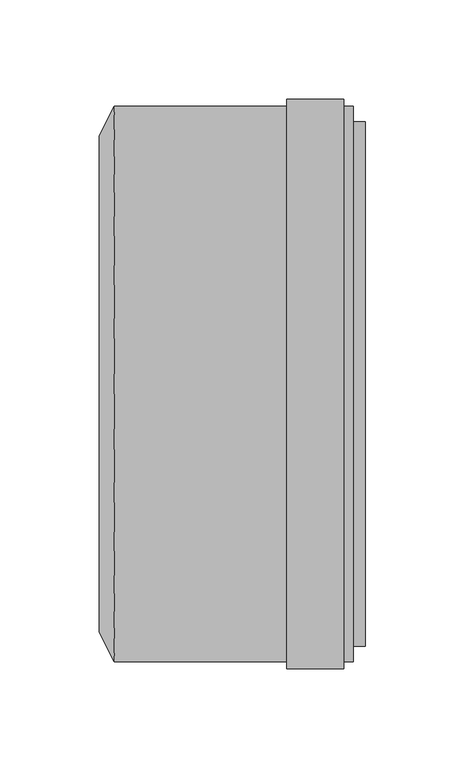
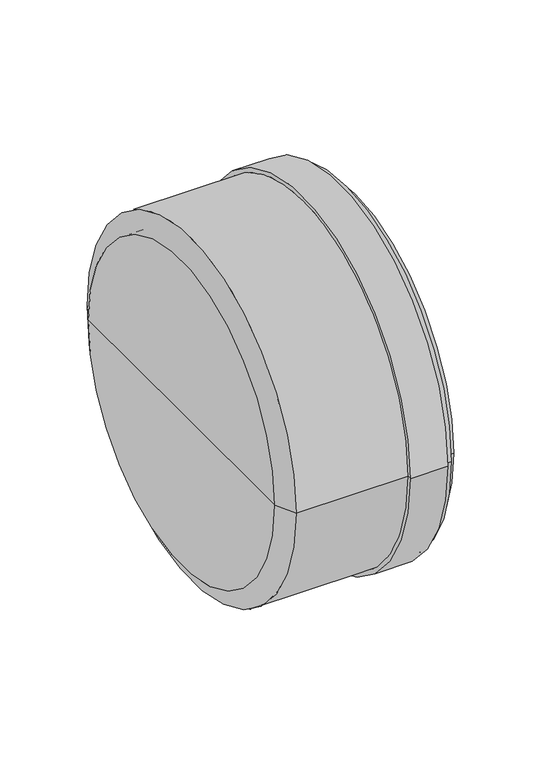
"""IFC4 building model written with IfcOpenShell, lengths in millimetres: pipe fitting geometry, pf_KGM_zatka : pf_KGM_zatka."""

from ifc_helpers import new_model, si_unit, frame, origin, place, context, project, spatial, polyline, circle_curve, source, transform, mapped, element, save
from ifc_brep_helpers import plane_surface, cylinder_surface, revolved_surface, advanced_brep


def pipe_fitting_c6753fa5(model_context):
    return source(origin(), model_context, "Body", "AdvancedBrep", [
        advanced_brep(
        [(-128.0, -125.0, 0.0), (-128.0, 125.0, 0.0), (-120.3, 140.1, 0.0), (-120.3, -140.1, 0.0), (-128.0, 0.0, 0.0), (0.0, -140.1, 0.0), (0.0, 140.1, 0.0), (0.0, 125.0, 0.0), (0.0, -125.0, 0.0), (-4.8, -140.1, 0.0), (-4.8, 140.1, 0.0), (-4.8, -143.5, 0.0), (-4.8, 143.5, 0.0), (-33.5, -143.5, 0.0), (-33.5, 143.5, 0.0), (-33.5, -140.1, 0.0), (-33.5, 140.1, 0.0), (-120.3, -125.0, 0.0), (-120.3, 125.0, 0.0), (-120.3, 0.0, 0.0)],
        [
            (0, 1, circle_curve(frame((-128.0, 0.0, 0.0), z_axis=(1.0, 0.0, 0.0), x_axis=(0.0, 1.0, 0.0)), 125.0)),
            (1, 2),
            (2, 3, circle_curve(frame((-120.3, 0.0, 0.0), z_axis=(-1.0, 0.0, 0.0), x_axis=(0.0, 1.0, 0.0)), 140.1)),
            (3, 0),
            (1, 0, circle_curve(frame((-128.0, 0.0, 0.0), z_axis=(1.0, 0.0, 0.0), x_axis=(0.0, 1.0, 0.0)), 125.0)),
            (3, 2, circle_curve(frame((-120.3, 0.0, 0.0), z_axis=(-1.0, 0.0, 0.0), x_axis=(0.0, 1.0, 0.0)), 140.1)),
            (4, 1),
            (0, 4),
            (5, 6, circle_curve(frame((0.0, 0.0, 0.0), z_axis=(1.0, 0.0, 0.0), x_axis=(0.0, 1.0, 0.0)), 140.1)),
            (6, 7),
            (7, 8, circle_curve(frame((0.0, 0.0, 0.0), z_axis=(-1.0, 0.0, 0.0), x_axis=(0.0, 1.0, 0.0)), 125.0)),
            (8, 5),
            (6, 5, circle_curve(frame((0.0, 0.0, 0.0), z_axis=(1.0, 0.0, 0.0), x_axis=(0.0, 1.0, 0.0)), 140.1)),
            (8, 7, circle_curve(frame((0.0, 0.0, 0.0), z_axis=(-1.0, 0.0, 0.0), x_axis=(0.0, 1.0, 0.0)), 125.0)),
            (9, 10, circle_curve(frame((-4.8, 0.0, 0.0), z_axis=(1.0, 0.0, 0.0), x_axis=(0.0, 1.0, 0.0)), 140.1)),
            (10, 6),
            (5, 9),
            (10, 9, circle_curve(frame((-4.8, 0.0, 0.0), z_axis=(1.0, 0.0, 0.0), x_axis=(0.0, 1.0, 0.0)), 140.1)),
            (11, 12, circle_curve(frame((-4.8, 0.0, 0.0), z_axis=(1.0, 0.0, 0.0), x_axis=(0.0, 1.0, 0.0)), 143.5)),
            (12, 10),
            (9, 11),
            (12, 11, circle_curve(frame((-4.8, 0.0, 0.0), z_axis=(1.0, 0.0, 0.0), x_axis=(0.0, 1.0, 0.0)), 143.5)),
            (13, 14, circle_curve(frame((-33.5, 0.0, 0.0), z_axis=(1.0, 0.0, 0.0), x_axis=(0.0, 1.0, 0.0)), 143.5)),
            (14, 12),
            (11, 13),
            (14, 13, circle_curve(frame((-33.5, 0.0, 0.0), z_axis=(1.0, 0.0, 0.0), x_axis=(0.0, 1.0, 0.0)), 143.5)),
            (15, 16, circle_curve(frame((-33.5, 0.0, 0.0), z_axis=(1.0, 0.0, 0.0), x_axis=(0.0, 1.0, 0.0)), 140.1)),
            (16, 14),
            (13, 15),
            (16, 15, circle_curve(frame((-33.5, 0.0, 0.0), z_axis=(1.0, 0.0, 0.0), x_axis=(0.0, 1.0, 0.0)), 140.1)),
            (2, 16),
            (15, 3),
            (17, 18, circle_curve(frame((-120.3, 0.0, 0.0), z_axis=(1.0, 0.0, 0.0), x_axis=(0.0, 1.0, 0.0)), 125.0)),
            (18, 19),
            (19, 17),
            (18, 17, circle_curve(frame((-120.3, 0.0, 0.0), z_axis=(1.0, 0.0, 0.0), x_axis=(0.0, 1.0, 0.0)), 125.0)),
            (7, 18),
            (17, 8),
        ],
        [
            revolved_surface(polyline([(-120.3, 140.1, 0.0), (-128.0, 125.0, 0.0)]), (-128.0, 0.0, 0.0), (-1.0, 0.0, 0.0)),
            plane_surface(frame((-128.0, 0.0, 0.0), z_axis=(-1.0, 0.0, 0.0), x_axis=(0.0, 1.0, 0.0))),
            plane_surface(frame((0.0, 0.0, 0.0), z_axis=(1.0, 0.0, 0.0), x_axis=(0.0, 1.0, 0.0))),
            cylinder_surface(frame((-128.0, 0.0, 0.0), z_axis=(-1.0, 0.0, 0.0), x_axis=(0.0, 1.0, 0.0)), 140.1),
            plane_surface(frame((-4.8, 0.0, 0.0), z_axis=(1.0, 0.0, 0.0), x_axis=(0.0, 1.0, 0.0))),
            cylinder_surface(frame((-128.0, 0.0, 0.0), z_axis=(-1.0, 0.0, 0.0), x_axis=(0.0, 1.0, 0.0)), 143.5),
            plane_surface(frame((-33.5, 0.0, 0.0), z_axis=(-1.0, 0.0, 0.0), x_axis=(0.0, 1.0, 0.0))),
            plane_surface(frame((-120.3, 0.0, 0.0), z_axis=(1.0, 0.0, 0.0), x_axis=(0.0, 1.0, 0.0))),
            revolved_surface(polyline([(-120.3, 125.0, 0.0), (0.0, 125.0, 0.0)]), (-128.0, 0.0, 0.0), (-1.0, 0.0, 0.0)),
        ],
        [
            (0, [[1, 2, 3, 4]]),
            (0, [[5, -4, 6, -2]]),
            (1, [[7, -1, 8]]),
            (1, [[-8, -5, -7]]),
            (2, [[9, 10, 11, 12]]),
            (2, [[13, -12, 14, -10]]),
            (3, [[15, 16, -9, 17]]),
            (3, [[18, -17, -13, -16]]),
            (4, [[19, 20, -15, 21]]),
            (4, [[22, -21, -18, -20]]),
            (5, [[23, 24, -19, 25]]),
            (5, [[26, -25, -22, -24]]),
            (6, [[27, 28, -23, 29]]),
            (6, [[30, -29, -26, -28]]),
            (3, [[-3, 31, -27, 32]]),
            (3, [[-6, -32, -30, -31]]),
            (7, [[33, 34, 35]]),
            (7, [[36, -35, -34]]),
            (8, [[-11, 37, -33, 38]]),
            (8, [[-14, -38, -36, -37]]),
        ],
    ),
        advanced_brep(
        [(-93.0, 0.0, 0.0), (-93.0, 125.0, 0.0), (-93.0, -125.0, 0.0), (6.2, -132.2, 0.0), (6.2, 132.2, 0.0), (6.2, 0.0, 0.0), (0.0, -132.2, 0.0), (0.0, 132.2, 0.0), (0.0, -126.0, 0.0), (0.0, 126.0, 0.0), (-89.0, -126.0, 0.0), (-89.0, 126.0, 0.0)],
        [
            (0, 1),
            (1, 2, circle_curve(frame((-93.0, 0.0, 0.0), z_axis=(-1.0, 0.0, 0.0), x_axis=(0.0, 1.0, 0.0)), 125.0)),
            (2, 0),
            (2, 1, circle_curve(frame((-93.0, 0.0, 0.0), z_axis=(-1.0, 0.0, 0.0), x_axis=(0.0, 1.0, 0.0)), 125.0)),
            (3, 4, circle_curve(frame((6.2, 0.0, 0.0), z_axis=(1.0, 0.0, 0.0), x_axis=(0.0, 1.0, 0.0)), 132.2)),
            (4, 5),
            (5, 3),
            (4, 3, circle_curve(frame((6.2, 0.0, 0.0), z_axis=(1.0, 0.0, 0.0), x_axis=(0.0, 1.0, 0.0)), 132.2)),
            (6, 7, circle_curve(frame((0.0, 0.0, 0.0), z_axis=(1.0, 0.0, 0.0), x_axis=(0.0, 1.0, 0.0)), 132.2)),
            (7, 4),
            (3, 6),
            (7, 6, circle_curve(frame((0.0, 0.0, 0.0), z_axis=(1.0, 0.0, 0.0), x_axis=(0.0, 1.0, 0.0)), 132.2)),
            (8, 9, circle_curve(frame((0.0, 0.0, 0.0), z_axis=(1.0, 0.0, 0.0), x_axis=(0.0, 1.0, 0.0)), 126.0)),
            (9, 7),
            (6, 8),
            (9, 8, circle_curve(frame((0.0, 0.0, 0.0), z_axis=(1.0, 0.0, 0.0), x_axis=(0.0, 1.0, 0.0)), 126.0)),
            (10, 11, circle_curve(frame((-89.0, 0.0, 0.0), z_axis=(1.0, 0.0, 0.0), x_axis=(0.0, 1.0, 0.0)), 126.0)),
            (11, 9),
            (8, 10),
            (11, 10, circle_curve(frame((-89.0, 0.0, 0.0), z_axis=(1.0, 0.0, 0.0), x_axis=(0.0, 1.0, 0.0)), 126.0)),
            (1, 11),
            (10, 2),
        ],
        [
            plane_surface(frame((-93.0, 0.0, 0.0), z_axis=(-1.0, 0.0, 0.0), x_axis=(0.0, 1.0, 0.0))),
            plane_surface(frame((6.2, 0.0, 0.0), z_axis=(1.0, 0.0, 0.0), x_axis=(0.0, 1.0, 0.0))),
            cylinder_surface(frame((-92.0241529, 0.0, 0.0), z_axis=(-1.0, 0.0, 0.0), x_axis=(0.0, 1.0, 0.0)), 132.2),
            plane_surface(frame((0.0, 0.0, 0.0), z_axis=(-1.0, 0.0, 0.0), x_axis=(0.0, 1.0, 0.0))),
            cylinder_surface(frame((-92.0241529, 0.0, 0.0), z_axis=(-1.0, 0.0, 0.0), x_axis=(0.0, 1.0, 0.0)), 126.0),
            revolved_surface(polyline([(-89.0, 126.0, 0.0), (-93.0, 125.0, 0.0)]), (-92.0241529, 0.0, 0.0), (-1.0, 0.0, 0.0)),
        ],
        [
            (0, [[1, 2, 3]]),
            (0, [[-3, 4, -1]]),
            (1, [[5, 6, 7]]),
            (1, [[8, -7, -6]]),
            (2, [[9, 10, -5, 11]]),
            (2, [[12, -11, -8, -10]]),
            (3, [[13, 14, -9, 15]]),
            (3, [[16, -15, -12, -14]]),
            (4, [[17, 18, -13, 19]]),
            (4, [[20, -19, -16, -18]]),
            (5, [[-2, 21, -17, 22]]),
            (5, [[-4, -22, -20, -21]]),
        ],
    ),
    ])


if __name__ == "__main__":
    model = new_model("IFC4")
    model_context = context("Model", 3, world=origin())
    ifc_project = project(units=[si_unit("LENGTHUNIT", "METRE", prefix="MILLI")], contexts=[model_context])
    site = spatial("IfcSite", under=ifc_project)
    building = spatial("IfcBuilding", under=site)
    placement = place(None, origin())
    pipe_fitting_shape = pipe_fitting_c6753fa5(model_context)
    element("IfcPipeFitting", 1, ObjectType="pf_KGM_zatka : pf_KGM_zatka", at=placement, inside=building, context=model_context, shape_type="MappedRepresentation", body=[
        mapped(pipe_fitting_shape, transform((0.0, 0.0, 0.0), x_axis=(1.0, 0.0, 0.0), y_axis=(0.0, 1.0, 0.0), z_axis=(0.0, 0.0, 1.0))),
    ])
    save(model, "model.ifc")
